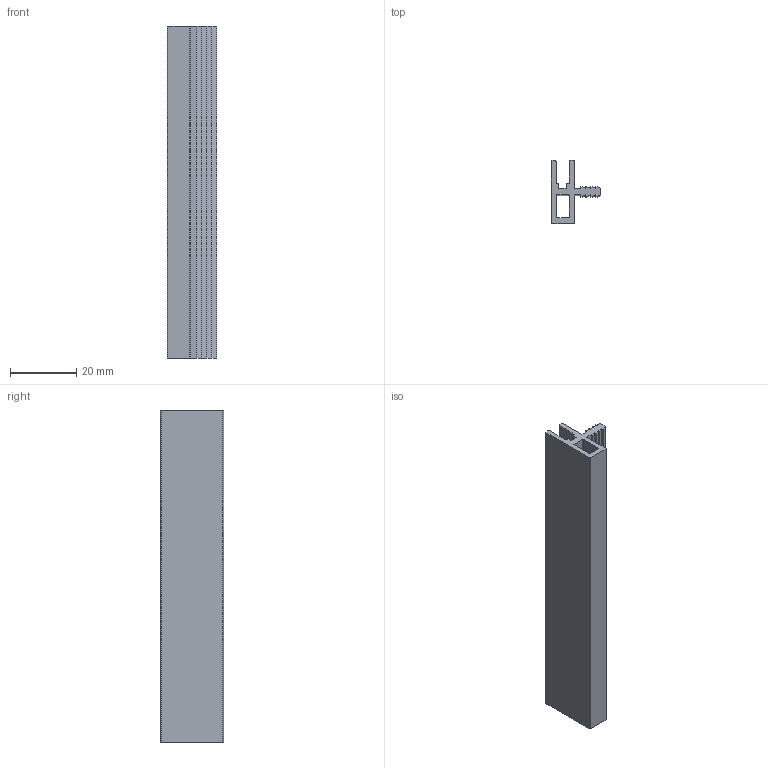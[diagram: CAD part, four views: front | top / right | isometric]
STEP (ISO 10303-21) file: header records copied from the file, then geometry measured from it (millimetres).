
FILE_DESCRIPTION(/* description */ (''),/* implementation_level */ '2;1');
FILE_NAME(/* name */ '508-1_tdra_Leuchtenkanaele_Twin-Light_Mono_mit_Steg.step',/* time_stamp */ '2026-05-12T07:23:40+02:00',/* author */ (''),/* organization */ (''),/* preprocessor_version */ 'ST-DEVELOPER v20.1',/* originating_system */ 'Autodesk Translation Framework v15.8.0.0',/* authorisation */ '');
FILE_SCHEMA (('AUTOMOTIVE_DESIGN { 1 0 10303 214 3 1 1 }'));
Length unit declared in the file: millimetre
Products named in the file (1): 508-1_tdra_Leuchtenkanaele_Twin-Light_Mono_mit_Steg
Bounding box: 15 x 19 x 100 mm (x, y, z)
Volume: 9318.1 mm3; surface area: 11270.7 mm2
Topology: 1 solids, 1 shells, 65 faces, 189 edges, 126 vertices
Faces by surface type: plane 45, bspline 20
Entity records: 2245 total; most frequent: CARTESIAN_POINT 601, ORIENTED_EDGE 378, DIRECTION 261, EDGE_CURVE 189, LINE 149, VECTOR 149, VERTEX_POINT 126, EDGE_LOOP 67
